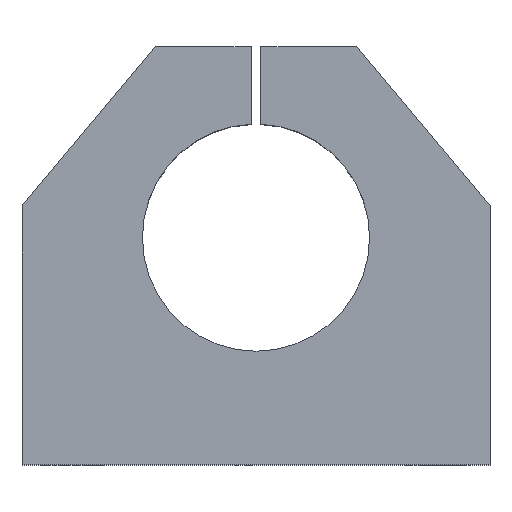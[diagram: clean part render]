
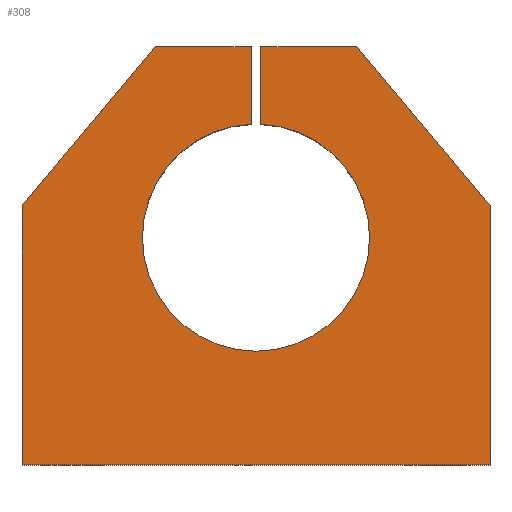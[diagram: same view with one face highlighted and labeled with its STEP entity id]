
A CAD part, top view. The second image highlights one B-rep face of the part: STEP entity #308.
In plain terms, the highlighted planar face has unit normal (0, 0, 1).
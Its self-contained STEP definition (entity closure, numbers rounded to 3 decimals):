
#28 = ORIENTED_EDGE ( 'NONE', *, *, #1048, .T. ) ;
#41 = CARTESIAN_POINT ( 'NONE',  ( -51.5, 46., 25. ) ) ;
#45 = ORIENTED_EDGE ( 'NONE', *, *, #1059, .T. ) ;
#57 = EDGE_CURVE ( 'NONE', #638, #1117, #1136, .T. ) ;
#66 = ORIENTED_EDGE ( 'NONE', *, *, #73, .T. ) ;
#73 = EDGE_CURVE ( 'NONE', #446, #613, #539, .T. ) ;
#74 = LINE ( 'NONE', #41, #944 ) ;
#75 = DIRECTION ( 'NONE',  ( 1., 0., 0. ) ) ;
#80 = VECTOR ( 'NONE', #700, 1000. ) ;
#81 = DIRECTION ( 'NONE',  ( 0., 0., 1. ) ) ;
#91 = DIRECTION ( 'NONE',  ( 0., 0., 1. ) ) ;
#98 = CARTESIAN_POINT ( 'NONE',  ( 51.5, 11., 25. ) ) ;
#116 = DIRECTION ( 'NONE',  ( 0., -1., 0. ) ) ;
#118 = DIRECTION ( 'NONE',  ( -1., 0., 0. ) ) ;
#126 = ORIENTED_EDGE ( 'NONE', *, *, #57, .F. ) ;
#135 = CARTESIAN_POINT ( 'NONE',  ( -1.075, 46., 25. ) ) ;
#157 = DIRECTION ( 'NONE',  ( 0., -1., 0. ) ) ;
#160 = VECTOR ( 'NONE', #1081, 1000. ) ;
#179 = LINE ( 'NONE', #442, #754 ) ;
#184 = LINE ( 'NONE', #837, #1133 ) ;
#190 = CARTESIAN_POINT ( 'NONE',  ( -51.5, 46., 25. ) ) ;
#203 = PLANE ( 'NONE',  #930 ) ;
#214 = EDGE_CURVE ( 'NONE', #643, #638, #651, .T. ) ;
#215 = VECTOR ( 'NONE', #983, 1000. ) ;
#239 = VECTOR ( 'NONE', #157, 1000. ) ;
#253 = ORIENTED_EDGE ( 'NONE', *, *, #396, .T. ) ;
#294 = AXIS2_PLACEMENT_3D ( 'NONE', #945, #318, #866 ) ;
#299 = CARTESIAN_POINT ( 'NONE',  ( 0., 0., 25. ) ) ;
#308 = ADVANCED_FACE ( 'NONE', ( #400 ), #203, .T. ) ;
#318 = DIRECTION ( 'NONE',  ( 0., 0., 1. ) ) ;
#323 = CARTESIAN_POINT ( 'NONE',  ( 51.5, 46., 25. ) ) ;
#341 = CARTESIAN_POINT ( 'NONE',  ( 51.5, -46., 25. ) ) ;
#344 = CARTESIAN_POINT ( 'NONE',  ( -35.638, 29.904, 25. ) ) ;
#355 = EDGE_CURVE ( 'NONE', #960, #643, #634, .T. ) ;
#362 = VERTEX_POINT ( 'NONE', #493 ) ;
#378 = DIRECTION ( 'NONE',  ( 1., 0., 0. ) ) ;
#396 = EDGE_CURVE ( 'NONE', #418, #696, #1041, .T. ) ;
#400 = FACE_OUTER_BOUND ( 'NONE', #508, .T. ) ;
#405 = DIRECTION ( 'NONE',  ( 0., 0., 1. ) ) ;
#418 = VERTEX_POINT ( 'NONE', #341 ) ;
#432 = ORIENTED_EDGE ( 'NONE', *, *, #355, .F. ) ;
#435 = VECTOR ( 'NONE', #936, 1000. ) ;
#442 = CARTESIAN_POINT ( 'NONE',  ( 35.638, 29.904, 25. ) ) ;
#446 = VERTEX_POINT ( 'NONE', #1054 ) ;
#457 = VERTEX_POINT ( 'NONE', #135 ) ;
#490 = EDGE_CURVE ( 'NONE', #457, #960, #1062, .T. ) ;
#493 = CARTESIAN_POINT ( 'NONE',  ( -22.132, 46., 25. ) ) ;
#508 = EDGE_LOOP ( 'NONE', ( #1162, #689, #126, #876, #432, #1073, #1088, #28, #66, #45, #253, #545 ) ) ;
#510 = CARTESIAN_POINT ( 'NONE',  ( 25., 4., 25. ) ) ;
#539 = LINE ( 'NONE', #190, #435 ) ;
#545 = ORIENTED_EDGE ( 'NONE', *, *, #793, .T. ) ;
#559 = DIRECTION ( 'NONE',  ( -0.643, 0.766, 0. ) ) ;
#560 = EDGE_CURVE ( 'NONE', #457, #362, #74, .T. ) ;
#613 = VERTEX_POINT ( 'NONE', #615 ) ;
#615 = CARTESIAN_POINT ( 'NONE',  ( -51.5, -46., 25. ) ) ;
#634 = CIRCLE ( 'NONE', #294, 25. ) ;
#638 = VERTEX_POINT ( 'NONE', #510 ) ;
#643 = VERTEX_POINT ( 'NONE', #868 ) ;
#651 = CIRCLE ( 'NONE', #982, 25. ) ;
#689 = ORIENTED_EDGE ( 'NONE', *, *, #1121, .T. ) ;
#696 = VERTEX_POINT ( 'NONE', #98 ) ;
#700 = DIRECTION ( 'NONE',  ( 0., 1., 0. ) ) ;
#711 = EDGE_CURVE ( 'NONE', #893, #912, #184, .T. ) ;
#714 = CARTESIAN_POINT ( 'NONE',  ( -1.075, 46., 25. ) ) ;
#715 = DIRECTION ( 'NONE',  ( -1., 0., 0. ) ) ;
#746 = CARTESIAN_POINT ( 'NONE',  ( 1.075, 28.977, 25. ) ) ;
#754 = VECTOR ( 'NONE', #559, 1000. ) ;
#763 = DIRECTION ( 'NONE',  ( 1., 0., 0. ) ) ;
#793 = EDGE_CURVE ( 'NONE', #696, #893, #179, .T. ) ;
#819 = CARTESIAN_POINT ( 'NONE',  ( 0., 4., 25. ) ) ;
#837 = CARTESIAN_POINT ( 'NONE',  ( -51.5, 46., 25. ) ) ;
#866 = DIRECTION ( 'NONE',  ( 1., 0., 0. ) ) ;
#868 = CARTESIAN_POINT ( 'NONE',  ( -25., 4., 25. ) ) ;
#876 = ORIENTED_EDGE ( 'NONE', *, *, #214, .F. ) ;
#880 = AXIS2_PLACEMENT_3D ( 'NONE', #924, #91, #378 ) ;
#893 = VERTEX_POINT ( 'NONE', #1201 ) ;
#901 = VECTOR ( 'NONE', #116, 1000. ) ;
#912 = VERTEX_POINT ( 'NONE', #1122 ) ;
#924 = CARTESIAN_POINT ( 'NONE',  ( 0., 4., 25. ) ) ;
#930 = AXIS2_PLACEMENT_3D ( 'NONE', #299, #405, #763 ) ;
#936 = DIRECTION ( 'NONE',  ( 0., -1., 0. ) ) ;
#944 = VECTOR ( 'NONE', #118, 1000. ) ;
#945 = CARTESIAN_POINT ( 'NONE',  ( 0., 4., 25. ) ) ;
#960 = VERTEX_POINT ( 'NONE', #1017 ) ;
#982 = AXIS2_PLACEMENT_3D ( 'NONE', #819, #81, #75 ) ;
#983 = DIRECTION ( 'NONE',  ( 1., 0., 0. ) ) ;
#1017 = CARTESIAN_POINT ( 'NONE',  ( -1.075, 28.977, 25. ) ) ;
#1019 = LINE ( 'NONE', #1105, #901 ) ;
#1041 = LINE ( 'NONE', #323, #80 ) ;
#1048 = EDGE_CURVE ( 'NONE', #362, #446, #1064, .T. ) ;
#1054 = CARTESIAN_POINT ( 'NONE',  ( -51.5, 11., 25. ) ) ;
#1059 = EDGE_CURVE ( 'NONE', #613, #418, #1166, .T. ) ;
#1062 = LINE ( 'NONE', #714, #239 ) ;
#1064 = LINE ( 'NONE', #344, #160 ) ;
#1069 = CARTESIAN_POINT ( 'NONE',  ( -51.5, -46., 25. ) ) ;
#1073 = ORIENTED_EDGE ( 'NONE', *, *, #490, .F. ) ;
#1081 = DIRECTION ( 'NONE',  ( -0.643, -0.766, 0. ) ) ;
#1088 = ORIENTED_EDGE ( 'NONE', *, *, #560, .T. ) ;
#1105 = CARTESIAN_POINT ( 'NONE',  ( 1.075, 46., 25. ) ) ;
#1117 = VERTEX_POINT ( 'NONE', #746 ) ;
#1121 = EDGE_CURVE ( 'NONE', #912, #1117, #1019, .T. ) ;
#1122 = CARTESIAN_POINT ( 'NONE',  ( 1.075, 46., 25. ) ) ;
#1133 = VECTOR ( 'NONE', #715, 1000. ) ;
#1136 = CIRCLE ( 'NONE', #880, 25. ) ;
#1162 = ORIENTED_EDGE ( 'NONE', *, *, #711, .T. ) ;
#1166 = LINE ( 'NONE', #1069, #215 ) ;
#1201 = CARTESIAN_POINT ( 'NONE',  ( 22.132, 46., 25. ) ) ;
